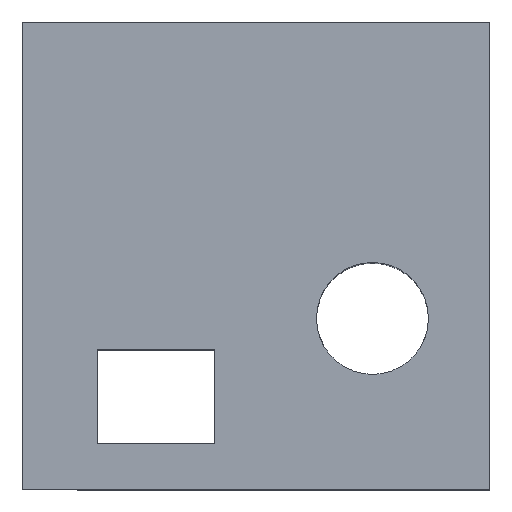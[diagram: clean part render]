
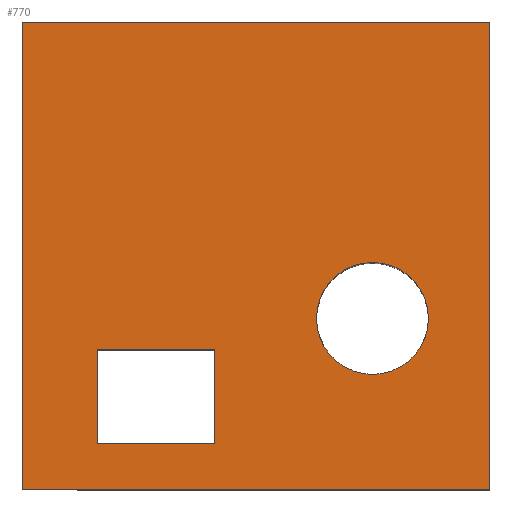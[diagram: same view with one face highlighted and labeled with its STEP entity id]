
A CAD part, top view. The second image highlights one B-rep face of the part: STEP entity #770.
In plain terms, the highlighted planar face has unit normal (0, 0, 1).
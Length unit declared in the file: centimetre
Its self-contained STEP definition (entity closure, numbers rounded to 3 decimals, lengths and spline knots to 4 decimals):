
#14 = EDGE_CURVE ( 'NONE', #1288, #149, #1212, .T. ) ;
#24 = CIRCLE ( 'NONE', #136, 119.8261 ) ;
#50 = LINE ( 'NONE', #1208, #255 ) ;
#68 = ORIENTED_EDGE ( 'NONE', *, *, #119, .T. ) ;
#71 = CARTESIAN_POINT ( 'NONE',  ( 159.8227, 96.7925, 1000. ) ) ;
#75 = VECTOR ( 'NONE', #475, 100. ) ;
#78 = EDGE_CURVE ( 'NONE', #149, #88, #1219, .T. ) ;
#88 = VERTEX_POINT ( 'NONE', #704 ) ;
#117 = CARTESIAN_POINT ( 'NONE',  ( 159.8227, 96.7925, 1000. ) ) ;
#119 = EDGE_CURVE ( 'NONE', #1174, #715, #1124, .T. ) ;
#120 = ORIENTED_EDGE ( 'NONE', *, *, #1349, .F. ) ;
#123 = LINE ( 'NONE', #637, #144 ) ;
#136 = AXIS2_PLACEMENT_3D ( 'NONE', #1216, #278, #177 ) ;
#144 = VECTOR ( 'NONE', #322, 100. ) ;
#149 = VERTEX_POINT ( 'NONE', #1029 ) ;
#156 = CARTESIAN_POINT ( 'NONE',  ( 1000., 1000., 1000. ) ) ;
#177 = DIRECTION ( 'NONE',  ( 1., 0., 0. ) ) ;
#188 = LINE ( 'NONE', #834, #935 ) ;
#196 = LINE ( 'NONE', #617, #500 ) ;
#205 = FACE_BOUND ( 'NONE', #1222, .T. ) ;
#217 = EDGE_CURVE ( 'NONE', #923, #1289, #123, .T. ) ;
#221 = VERTEX_POINT ( 'NONE', #1265 ) ;
#255 = VECTOR ( 'NONE', #1089, 100. ) ;
#272 = LINE ( 'NONE', #671, #75 ) ;
#278 = DIRECTION ( 'NONE',  ( 0., 0., 1. ) ) ;
#288 = DIRECTION ( 'NONE',  ( 0., -1., 0. ) ) ;
#295 = CARTESIAN_POINT ( 'NONE',  ( 0., 1000., 1000. ) ) ;
#320 = ORIENTED_EDGE ( 'NONE', *, *, #540, .T. ) ;
#322 = DIRECTION ( 'NONE',  ( 0., -1., 0. ) ) ;
#383 = EDGE_CURVE ( 'NONE', #221, #1288, #272, .T. ) ;
#405 = EDGE_CURVE ( 'NONE', #813, #1255, #1034, .T. ) ;
#411 = CARTESIAN_POINT ( 'NONE',  ( 0., 0., 1000. ) ) ;
#440 = EDGE_LOOP ( 'NONE', ( #68, #916, #525, #320 ) ) ;
#442 = CARTESIAN_POINT ( 'NONE',  ( 411.7479, 299.0332, 1000. ) ) ;
#463 = CARTESIAN_POINT ( 'NONE',  ( 411.7479, 96.7925, 1000. ) ) ;
#475 = DIRECTION ( 'NONE',  ( 0., 1., 0. ) ) ;
#483 = CARTESIAN_POINT ( 'NONE',  ( 749.277, 365.5093, 1000. ) ) ;
#492 = ORIENTED_EDGE ( 'NONE', *, *, #383, .T. ) ;
#498 = FACE_BOUND ( 'NONE', #440, .T. ) ;
#500 = VECTOR ( 'NONE', #1022, 100. ) ;
#508 = PLANE ( 'NONE',  #584 ) ;
#518 = ORIENTED_EDGE ( 'NONE', *, *, #405, .F. ) ;
#525 = ORIENTED_EDGE ( 'NONE', *, *, #217, .T. ) ;
#540 = EDGE_CURVE ( 'NONE', #1289, #1174, #196, .T. ) ;
#565 = ORIENTED_EDGE ( 'NONE', *, *, #78, .T. ) ;
#581 = EDGE_CURVE ( 'NONE', #715, #923, #50, .T. ) ;
#584 = AXIS2_PLACEMENT_3D ( 'NONE', #411, #1126, #619 ) ;
#617 = CARTESIAN_POINT ( 'NONE',  ( 159.8227, 96.7925, 1000. ) ) ;
#619 = DIRECTION ( 'NONE',  ( 1., 0., 0. ) ) ;
#637 = CARTESIAN_POINT ( 'NONE',  ( 411.7479, 96.7925, 1000. ) ) ;
#671 = CARTESIAN_POINT ( 'NONE',  ( 1000., 1000., 1000. ) ) ;
#679 = DIRECTION ( 'NONE',  ( 0., 0., 1. ) ) ;
#686 = DIRECTION ( 'NONE',  ( 1., 0., 0. ) ) ;
#697 = CARTESIAN_POINT ( 'NONE',  ( 0., 1000., 1000. ) ) ;
#704 = CARTESIAN_POINT ( 'NONE',  ( 0., 0., 1000. ) ) ;
#715 = VERTEX_POINT ( 'NONE', #941 ) ;
#717 = VECTOR ( 'NONE', #1207, 100. ) ;
#770 = ADVANCED_FACE ( 'NONE', ( #498, #205, #1030 ), #508, .T. ) ;
#789 = CARTESIAN_POINT ( 'NONE',  ( 629.4509, 365.5093, 1000. ) ) ;
#799 = EDGE_CURVE ( 'NONE', #88, #221, #188, .T. ) ;
#813 = VERTEX_POINT ( 'NONE', #927 ) ;
#834 = CARTESIAN_POINT ( 'NONE',  ( 0., 0., 1000. ) ) ;
#866 = AXIS2_PLACEMENT_3D ( 'NONE', #483, #679, #686 ) ;
#871 = EDGE_LOOP ( 'NONE', ( #565, #963, #492, #1072 ) ) ;
#914 = DIRECTION ( 'NONE',  ( -1., 0., 0. ) ) ;
#916 = ORIENTED_EDGE ( 'NONE', *, *, #581, .T. ) ;
#923 = VERTEX_POINT ( 'NONE', #442 ) ;
#927 = CARTESIAN_POINT ( 'NONE',  ( 869.1031, 365.5093, 1000. ) ) ;
#933 = DIRECTION ( 'NONE',  ( 1., 0., 0. ) ) ;
#935 = VECTOR ( 'NONE', #933, 100. ) ;
#941 = CARTESIAN_POINT ( 'NONE',  ( 159.8227, 299.0332, 1000. ) ) ;
#963 = ORIENTED_EDGE ( 'NONE', *, *, #799, .T. ) ;
#989 = VECTOR ( 'NONE', #914, 100. ) ;
#1022 = DIRECTION ( 'NONE',  ( -1., 0., 0. ) ) ;
#1029 = CARTESIAN_POINT ( 'NONE',  ( 0., 1000., 1000. ) ) ;
#1030 = FACE_OUTER_BOUND ( 'NONE', #871, .T. ) ;
#1034 = CIRCLE ( 'NONE', #866, 119.8261 ) ;
#1072 = ORIENTED_EDGE ( 'NONE', *, *, #14, .T. ) ;
#1089 = DIRECTION ( 'NONE',  ( 1., 0., 0. ) ) ;
#1120 = VECTOR ( 'NONE', #288, 100. ) ;
#1124 = LINE ( 'NONE', #71, #717 ) ;
#1126 = DIRECTION ( 'NONE',  ( 0., 0., 1. ) ) ;
#1174 = VERTEX_POINT ( 'NONE', #117 ) ;
#1207 = DIRECTION ( 'NONE',  ( 0., 1., 0. ) ) ;
#1208 = CARTESIAN_POINT ( 'NONE',  ( 159.8227, 299.0332, 1000. ) ) ;
#1212 = LINE ( 'NONE', #697, #989 ) ;
#1216 = CARTESIAN_POINT ( 'NONE',  ( 749.277, 365.5093, 1000. ) ) ;
#1219 = LINE ( 'NONE', #295, #1120 ) ;
#1222 = EDGE_LOOP ( 'NONE', ( #518, #120 ) ) ;
#1255 = VERTEX_POINT ( 'NONE', #789 ) ;
#1265 = CARTESIAN_POINT ( 'NONE',  ( 1000., 0., 1000. ) ) ;
#1288 = VERTEX_POINT ( 'NONE', #156 ) ;
#1289 = VERTEX_POINT ( 'NONE', #463 ) ;
#1349 = EDGE_CURVE ( 'NONE', #1255, #813, #24, .T. ) ;
